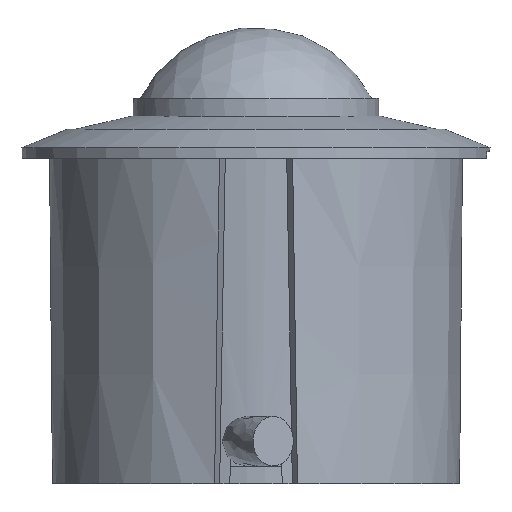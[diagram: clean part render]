
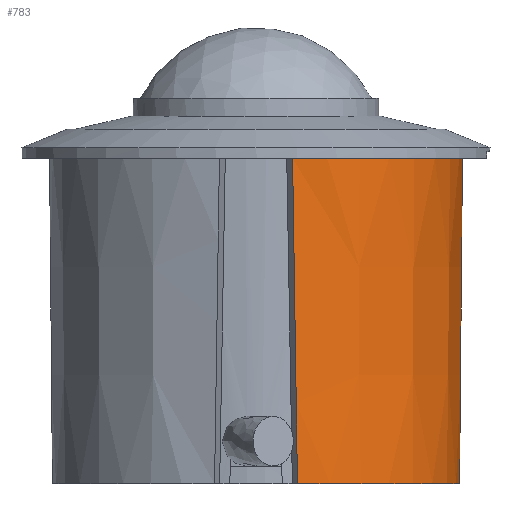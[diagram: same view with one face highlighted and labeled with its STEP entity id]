
A CAD part, front view. The second image highlights one B-rep face of the part: STEP entity #783.
In plain terms, the highlighted conical face has half-angle 0.5 degrees and reference radius 12.5 mm.
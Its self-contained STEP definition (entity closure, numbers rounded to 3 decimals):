
#30=ELLIPSE('',#851,915.06,13.831);
#31=ELLIPSE('',#854,915.06,13.831);
#86=CONICAL_SURFACE('',#852,12.5,0.009);
#178=ORIENTED_EDGE('',*,*,#278,.F.);
#179=ORIENTED_EDGE('',*,*,#294,.F.);
#180=ORIENTED_EDGE('',*,*,#295,.T.);
#181=ORIENTED_EDGE('',*,*,#296,.F.);
#278=EDGE_CURVE('',#345,#346,#386,.T.);
#294=EDGE_CURVE('',#357,#345,#30,.T.);
#295=EDGE_CURVE('',#357,#358,#393,.T.);
#296=EDGE_CURVE('',#346,#358,#31,.T.);
#345=VERTEX_POINT('',#1535);
#346=VERTEX_POINT('',#1537);
#357=VERTEX_POINT('',#1566);
#358=VERTEX_POINT('',#1570);
#386=CIRCLE('',#838,12.328);
#393=CIRCLE('',#853,12.5);
#430=EDGE_LOOP('',(#178,#179,#180,#181));
#478=FACE_BOUND('',#430,.T.);
#783=ADVANCED_FACE('',(#478),#86,.T.);
#838=AXIS2_PLACEMENT_3D('',#1536,#964,#965);
#851=AXIS2_PLACEMENT_3D('',#1567,#996,#997);
#852=AXIS2_PLACEMENT_3D('',#1568,#998,#999);
#853=AXIS2_PLACEMENT_3D('',#1569,#1000,#1001);
#854=AXIS2_PLACEMENT_3D('',#1571,#1002,#1003);
#964=DIRECTION('',(0.,0.,-1.));
#965=DIRECTION('',(0.,-1.,0.));
#996=DIRECTION('',(-0.259,0.966,-0.017));
#997=DIRECTION('',(-0.005,0.017,1.));
#998=DIRECTION('',(0.,0.,1.));
#999=DIRECTION('',(0.,-1.,0.));
#1000=DIRECTION('',(0.,0.,-1.));
#1001=DIRECTION('',(0.,1.,0.));
#1002=DIRECTION('',(-0.966,-0.259,-0.017));
#1003=DIRECTION('',(-0.017,-0.005,1.));
#1535=CARTESIAN_POINT('',(11.708,3.862,-19.7));
#1536=CARTESIAN_POINT('',(0.,0.,-19.7));
#1537=CARTESIAN_POINT('',(2.509,-12.07,-19.7));
#1566=CARTESIAN_POINT('',(11.762,4.232,0.));
#1567=CARTESIAN_POINT('',(-2.067,7.712,397.623));
#1568=CARTESIAN_POINT('',(0.,0.,0.));
#1569=CARTESIAN_POINT('',(0.,0.,0.));
#1570=CARTESIAN_POINT('',(2.216,-12.302,0.));
#1571=CARTESIAN_POINT('',(-7.712,-2.067,397.623));
